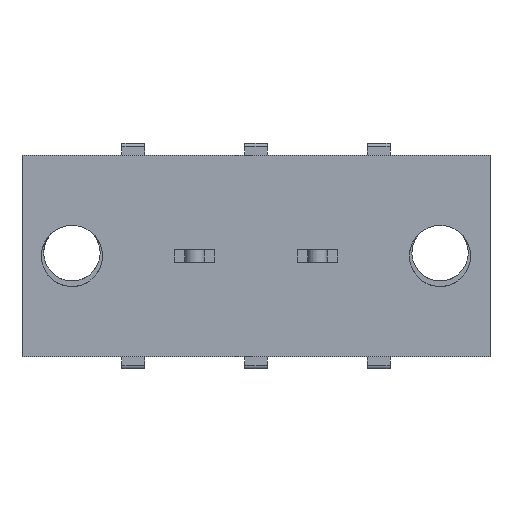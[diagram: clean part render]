
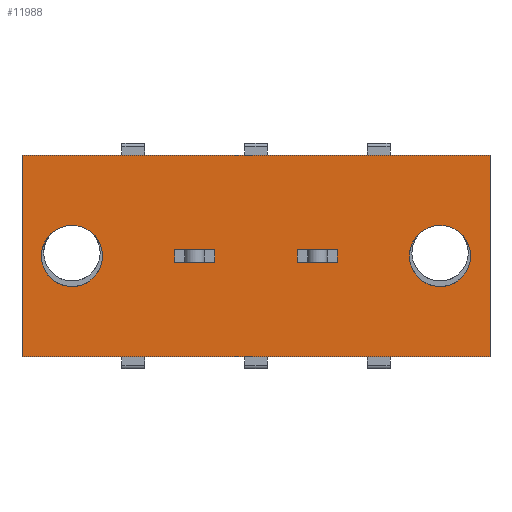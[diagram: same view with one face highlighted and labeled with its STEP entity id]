
A CAD part, front view. The second image highlights one B-rep face of the part: STEP entity #11988.
In plain terms, the highlighted planar face has unit normal (0, -1, 0).
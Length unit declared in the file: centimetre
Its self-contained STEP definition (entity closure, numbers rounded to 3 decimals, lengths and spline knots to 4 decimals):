
#582=CIRCLE('',#19947,0.19);
#670=CIRCLE('',#20206,0.19);
#794=VERTEX_POINT('',#15399);
#795=VERTEX_POINT('',#15400);
#798=VERTEX_POINT('',#15408);
#824=VERTEX_POINT('',#15478);
#1209=VERTEX_POINT('',#17122);
#1210=VERTEX_POINT('',#17124);
#1211=VERTEX_POINT('',#17128);
#1469=VERTEX_POINT('',#17951);
#1470=VERTEX_POINT('',#17952);
#1479=VERTEX_POINT('',#17978);
#1488=VERTEX_POINT('',#18014);
#1529=VERTEX_POINT('',#18136);
#1531=VERTEX_POINT('',#18143);
#1532=VERTEX_POINT('',#18145);
#1979=VECTOR('',#12970,1.);
#1983=VECTOR('',#12975,1.);
#2011=VECTOR('',#13028,1.);
#2013=VECTOR('',#13031,1.);
#2478=VECTOR('',#13675,1.);
#2761=VECTOR('',#14273,1.);
#2772=VECTOR('',#14293,1.);
#2786=VECTOR('',#14326,1.);
#2788=VECTOR('',#14329,1.);
#2836=VECTOR('',#14423,1.);
#2840=VECTOR('',#14430,1.);
#2841=VECTOR('',#14431,1.);
#3359=LINE('',#15398,#1979);
#3363=LINE('',#15407,#1983);
#3391=LINE('',#15477,#2011);
#3393=LINE('',#15481,#2013);
#3858=LINE('',#17123,#2478);
#4141=LINE('',#17950,#2761);
#4152=LINE('',#17977,#2772);
#4166=LINE('',#18013,#2786);
#4168=LINE('',#18017,#2788);
#4216=LINE('',#18135,#2836);
#4220=LINE('',#18144,#2840);
#4221=LINE('',#18146,#2841);
#4811=EDGE_CURVE('',#794,#795,#3359,.T.);
#4815=EDGE_CURVE('',#798,#794,#3363,.T.);
#4850=EDGE_CURVE('',#824,#798,#3391,.T.);
#4853=EDGE_CURVE('',#795,#824,#3393,.T.);
#5430=EDGE_CURVE('',#1210,#1209,#3858,.T.);
#5432=EDGE_CURVE('',#1211,#1211,#582,.T.);
#5819=EDGE_CURVE('',#1469,#1470,#4141,.T.);
#5834=EDGE_CURVE('',#1479,#1469,#4152,.T.);
#5852=EDGE_CURVE('',#1488,#1479,#4166,.T.);
#5854=EDGE_CURVE('',#1470,#1488,#4168,.T.);
#5913=EDGE_CURVE('',#1529,#1209,#4216,.T.);
#5917=EDGE_CURVE('',#1531,#1531,#670,.T.);
#5918=EDGE_CURVE('',#1532,#1210,#4220,.T.);
#5919=EDGE_CURVE('',#1532,#1529,#4221,.T.);
#8945=ORIENTED_EDGE('',*,*,#4815,.T.);
#8946=ORIENTED_EDGE('',*,*,#4811,.T.);
#8947=ORIENTED_EDGE('',*,*,#4853,.T.);
#8948=ORIENTED_EDGE('',*,*,#4850,.T.);
#8949=ORIENTED_EDGE('',*,*,#5432,.T.);
#8950=ORIENTED_EDGE('',*,*,#5917,.T.);
#8951=ORIENTED_EDGE('',*,*,#5834,.F.);
#8952=ORIENTED_EDGE('',*,*,#5852,.F.);
#8953=ORIENTED_EDGE('',*,*,#5854,.F.);
#8954=ORIENTED_EDGE('',*,*,#5819,.F.);
#8955=ORIENTED_EDGE('',*,*,#5918,.T.);
#8956=ORIENTED_EDGE('',*,*,#5430,.T.);
#8957=ORIENTED_EDGE('',*,*,#5913,.F.);
#8958=ORIENTED_EDGE('',*,*,#5919,.F.);
#10552=EDGE_LOOP('',(#8945,#8946,#8947,#8948));
#10553=EDGE_LOOP('',(#8949));
#10554=EDGE_LOOP('',(#8950));
#10555=EDGE_LOOP('',(#8951,#8952,#8953,#8954));
#10556=EDGE_LOOP('',(#8955,#8956,#8957,#8958));
#11290=FACE_BOUND('',#10552,.T.);
#11291=FACE_BOUND('',#10553,.T.);
#11292=FACE_BOUND('',#10554,.T.);
#11293=FACE_BOUND('',#10555,.T.);
#11294=FACE_BOUND('',#10556,.T.);
#11988=ADVANCED_FACE('',(#11290,#11291,#11292,#11293,#11294),#12537,.T.);
#12537=PLANE('',#20205);
#12970=DIRECTION('',(0.,0.,1.));
#12975=DIRECTION('',(-1.,0.,0.));
#13028=DIRECTION('',(0.,0.,-1.));
#13031=DIRECTION('',(1.,0.,0.));
#13675=DIRECTION('',(0.,0.,1.));
#13679=DIRECTION('',(0.,1.,0.));
#13680=DIRECTION('',(0.19,0.,0.));
#14273=DIRECTION('',(0.,0.,1.));
#14293=DIRECTION('',(1.,0.,0.));
#14326=DIRECTION('',(0.,0.,-1.));
#14329=DIRECTION('',(-1.,0.,0.));
#14423=DIRECTION('',(1.,0.,0.));
#14427=DIRECTION('',(0.,-1.,0.));
#14428=DIRECTION('',(0.,1.,0.));
#14429=DIRECTION('',(0.19,0.,0.));
#14430=DIRECTION('',(1.,0.,0.));
#14431=DIRECTION('',(0.,0.,1.));
#15398=CARTESIAN_POINT('',(0.637,-0.53,0.));
#15399=CARTESIAN_POINT('',(0.637,-0.53,-0.04));
#15400=CARTESIAN_POINT('',(0.637,-0.53,0.04));
#15407=CARTESIAN_POINT('',(0.155,-0.53,-0.04));
#15408=CARTESIAN_POINT('',(0.887,-0.53,-0.04));
#15477=CARTESIAN_POINT('',(0.887,-0.53,0.));
#15478=CARTESIAN_POINT('',(0.887,-0.53,0.04));
#15481=CARTESIAN_POINT('',(0.155,-0.53,0.04));
#17122=CARTESIAN_POINT('',(1.834,-0.53,0.625));
#17123=CARTESIAN_POINT('',(1.834,-0.53,-0.625));
#17124=CARTESIAN_POINT('',(1.834,-0.53,-0.625));
#17127=CARTESIAN_POINT('',(1.524,-0.53,0.));
#17128=CARTESIAN_POINT('',(1.334,-0.53,0.));
#17950=CARTESIAN_POINT('',(0.125,-0.53,0.));
#17951=CARTESIAN_POINT('',(0.125,-0.53,-0.04));
#17952=CARTESIAN_POINT('',(0.125,-0.53,0.04));
#17977=CARTESIAN_POINT('',(-0.155,-0.53,-0.04));
#17978=CARTESIAN_POINT('',(-0.125,-0.53,-0.04));
#18013=CARTESIAN_POINT('',(-0.125,-0.53,0.));
#18014=CARTESIAN_POINT('',(-0.125,-0.53,0.04));
#18017=CARTESIAN_POINT('',(-0.155,-0.53,0.04));
#18135=CARTESIAN_POINT('',(-1.072,-0.53,0.625));
#18136=CARTESIAN_POINT('',(-1.072,-0.53,0.625));
#18141=CARTESIAN_POINT('',(-0.452,-0.53,0.));
#18142=CARTESIAN_POINT('',(-0.762,-0.53,0.));
#18143=CARTESIAN_POINT('',(-0.952,-0.53,0.));
#18144=CARTESIAN_POINT('',(-1.072,-0.53,-0.625));
#18145=CARTESIAN_POINT('',(-1.072,-0.53,-0.625));
#18146=CARTESIAN_POINT('',(-1.072,-0.53,-0.625));
#19947=AXIS2_PLACEMENT_3D('',#17127,#13679,#13680);
#20205=AXIS2_PLACEMENT_3D('',#18141,#14427,$);
#20206=AXIS2_PLACEMENT_3D('',#18142,#14428,#14429);
